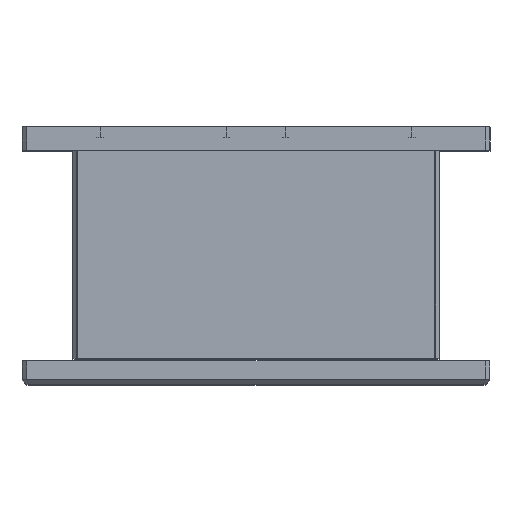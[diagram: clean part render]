
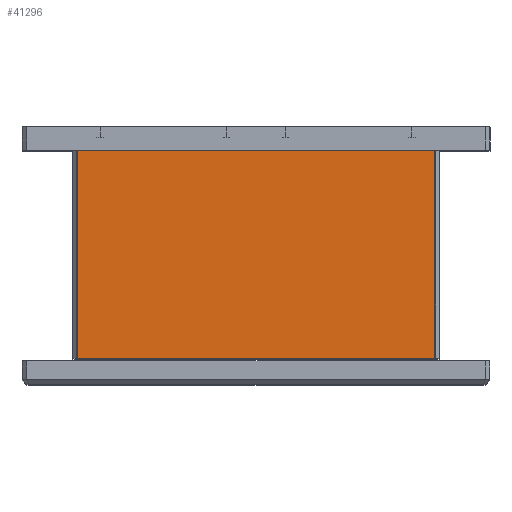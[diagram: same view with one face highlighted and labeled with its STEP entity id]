
A CAD part, top view. The second image highlights one B-rep face of the part: STEP entity #41296.
In plain terms, the highlighted planar face has unit normal (0, 0, 1).
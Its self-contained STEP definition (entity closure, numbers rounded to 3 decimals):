
#23 = VERTEX_POINT ( 'NONE', #22636 ) ;
#1023 = CARTESIAN_POINT ( 'NONE',  ( 75.5, 0., 110. ) ) ;
#2000 = EDGE_CURVE ( 'NONE', #3992, #34466, #30329, .T. ) ;
#2303 = VERTEX_POINT ( 'NONE', #25685 ) ;
#3563 = CARTESIAN_POINT ( 'NONE',  ( 75.5, -88., 110. ) ) ;
#3992 = VERTEX_POINT ( 'NONE', #37188 ) ;
#4691 = VECTOR ( 'NONE', #9425, 1000. ) ;
#7779 = EDGE_CURVE ( 'NONE', #23, #2303, #35480, .T. ) ;
#7834 = DIRECTION ( 'NONE',  ( 0., 0., -1. ) ) ;
#8226 = CARTESIAN_POINT ( 'NONE',  ( 75.5, 0., 110. ) ) ;
#8705 = VECTOR ( 'NONE', #13422, 1000. ) ;
#9425 = DIRECTION ( 'NONE',  ( 1., 0., 0. ) ) ;
#9878 = VECTOR ( 'NONE', #33711, 1000. ) ;
#12187 = EDGE_CURVE ( 'NONE', #2303, #34466, #25911, .T. ) ;
#13422 = DIRECTION ( 'NONE',  ( 0., -1., 0. ) ) ;
#16224 = ORIENTED_EDGE ( 'NONE', *, *, #2000, .F. ) ;
#17064 = CARTESIAN_POINT ( 'NONE',  ( -75.5, 0., 110. ) ) ;
#17204 = CARTESIAN_POINT ( 'NONE',  ( 75.5, 0., 110. ) ) ;
#22636 = CARTESIAN_POINT ( 'NONE',  ( -75.5, 0., 110. ) ) ;
#23770 = LINE ( 'NONE', #17204, #4691 ) ;
#23862 = CARTESIAN_POINT ( 'NONE',  ( 75.5, -88., 110. ) ) ;
#25685 = CARTESIAN_POINT ( 'NONE',  ( -75.5, -88., 110. ) ) ;
#25911 = LINE ( 'NONE', #3563, #29204 ) ;
#29204 = VECTOR ( 'NONE', #47728, 1000. ) ;
#30329 = LINE ( 'NONE', #8226, #9878 ) ;
#33711 = DIRECTION ( 'NONE',  ( 0., -1., 0. ) ) ;
#34364 = EDGE_LOOP ( 'NONE', ( #34646, #16224, #42414, #41264 ) ) ;
#34466 = VERTEX_POINT ( 'NONE', #23862 ) ;
#34646 = ORIENTED_EDGE ( 'NONE', *, *, #12187, .T. ) ;
#35480 = LINE ( 'NONE', #17064, #8705 ) ;
#37188 = CARTESIAN_POINT ( 'NONE',  ( 75.5, 0., 110. ) ) ;
#37602 = EDGE_CURVE ( 'NONE', #23, #3992, #23770, .T. ) ;
#37922 = FACE_OUTER_BOUND ( 'NONE', #34364, .T. ) ;
#39790 = AXIS2_PLACEMENT_3D ( 'NONE', #1023, #7834, #45197 ) ;
#41264 = ORIENTED_EDGE ( 'NONE', *, *, #7779, .T. ) ;
#41296 = ADVANCED_FACE ( 'NONE', ( #37922 ), #41555, .F. ) ;
#41555 = PLANE ( 'NONE',  #39790 ) ;
#42414 = ORIENTED_EDGE ( 'NONE', *, *, #37602, .F. ) ;
#45197 = DIRECTION ( 'NONE',  ( -1., 0., 0. ) ) ;
#47728 = DIRECTION ( 'NONE',  ( 1., 0., 0. ) ) ;
